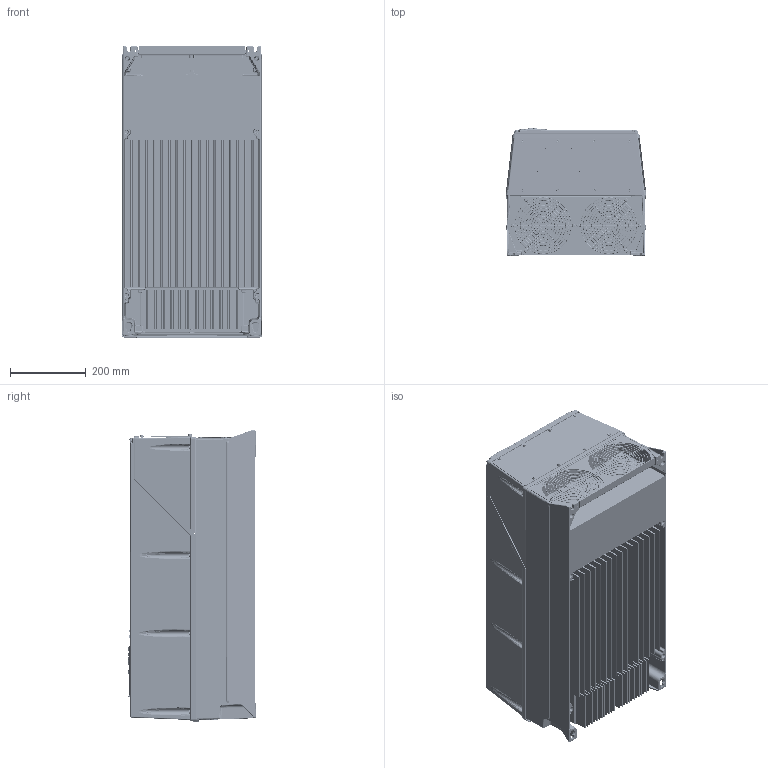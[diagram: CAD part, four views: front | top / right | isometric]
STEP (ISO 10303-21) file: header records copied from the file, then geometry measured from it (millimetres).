
FILE_DESCRIPTION((''),'2;1');
FILE_NAME('DANFOSS-FC100-C2-008','2007-11-30T',('Naushad.pm'),('dan Drives A/S'),'PRO/ENGINEER BY PARAMETRIC TECHNOLOGY CORPORATION, 2007160','PRO/ENGINEER BY PARAMETRIC TECHNOLOGY CORPORATION, 2007160','');
FILE_SCHEMA(('CONFIG_CONTROL_DESIGN', 'GEOMETRIC_VALIDATION_PROPERTIES_MIM'));
Products named in the file (1): DANFOSS-FC100-C2-008
Bounding box: 371.37 x 335 x 767.48 mm (x, y, z)
Volume: 67701909.2 mm3; surface area: 4072886.8 mm2
Topology: 1 solids, 43 shells, 7009 faces, 17545 edges, 10630 vertices
Faces by surface type: cylinder 2532, plane 1739, bspline 1576, torus 514, cone 488, extrusion 82, sphere 78
Entity records: 427622 total; most frequent: CARTESIAN_POINT 223712, ORIENTED_EDGE 34872, DIRECTION 27626, EDGE_CURVE 17436, VERTEX_POINT 10630, AXIS2_PLACEMENT_3D 10229, FILL_AREA_STYLE_COLOUR 7845, FILL_AREA_STYLE 7845
